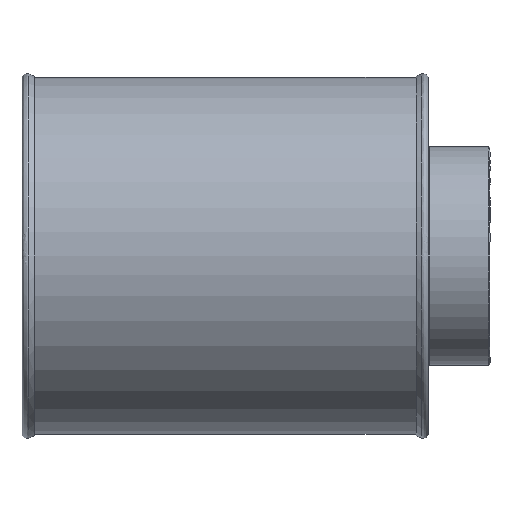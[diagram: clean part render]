
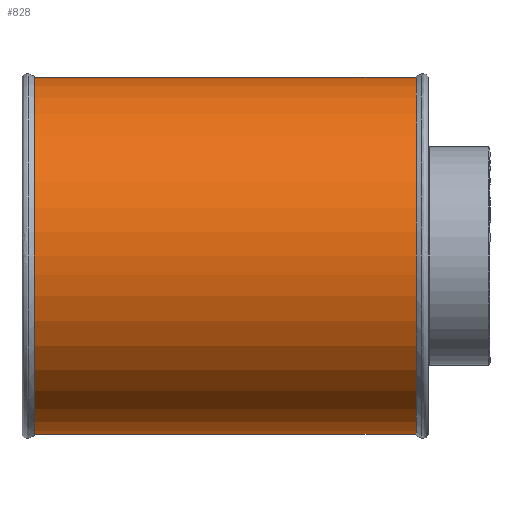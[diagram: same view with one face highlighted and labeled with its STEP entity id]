
A CAD part, left-side view. The second image highlights one B-rep face of the part: STEP entity #828.
In plain terms, the highlighted free-form (B-spline) face has degree [2, 1] with [7, 2] control points.
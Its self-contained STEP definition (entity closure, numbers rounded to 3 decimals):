
#756=CARTESIAN_POINT('V18',(-72.5,0.0,
   0.));
#757=VERTEX_POINT('V18',#756);
#758=CARTESIAN_POINT('E44',(-72.5,0.0,
   0.));
#759=CARTESIAN_POINT('E44',(-72.5,0.0,
   125.574));
#760=CARTESIAN_POINT('E44',(36.25,0.,
   62.787));
#761=CARTESIAN_POINT('E44',(145.,0.,
   0.));
#762=CARTESIAN_POINT('E44',(36.25,0.,
   -62.787));
#763=CARTESIAN_POINT('E44',(-72.5,0.0,
   -125.574));
#764=CARTESIAN_POINT('E44',(-72.5,0.0,
   0.));
#772=(BOUNDED_CURVE()B_SPLINE_CURVE(2,(#758,#759,#760,#761,#762,
   #763,#764),.CIRCULAR_ARC.,.T.,.U.)B_SPLINE_CURVE_WITH_KNOTS((3,
   2,2,3),(0.0,0.333,0.667,1.0),
   .UNSPECIFIED.)CURVE()GEOMETRIC_REPRESENTATION_ITEM()
   RATIONAL_B_SPLINE_CURVE((1.0,0.5,1.0,
   0.5,1.0,0.5,1.0))REPRESENTATION_ITEM(
   'E44'));
#773=EDGE_CURVE('E44',#757,#757,#772,.T.);
#778=CARTESIAN_POINT('F17',(-72.5,-155.0,
   0.));
#779=CARTESIAN_POINT('F17',(-72.5,-155.0,
   125.574));
#780=CARTESIAN_POINT('F17',(36.25,-155.0,
   62.787));
#781=CARTESIAN_POINT('F17',(145.,-155.0,
   0.));
#782=CARTESIAN_POINT('F17',(36.25,-155.0,
   -62.787));
#783=CARTESIAN_POINT('F17',(-72.5,-155.0,
   -125.574));
#784=CARTESIAN_POINT('F17',(-72.5,-155.0,
   0.));
#785=CARTESIAN_POINT('F17',(-72.5,0.0,
   0.));
#786=CARTESIAN_POINT('F17',(-72.5,0.0,
   125.574));
#787=CARTESIAN_POINT('F17',(36.25,0.,
   62.787));
#788=CARTESIAN_POINT('F17',(145.,0.,
   0.));
#789=CARTESIAN_POINT('F17',(36.25,0.,
   -62.787));
#790=CARTESIAN_POINT('F17',(-72.5,0.0,
   -125.574));
#791=CARTESIAN_POINT('F17',(-72.5,0.0,
   0.));
#799=(BOUNDED_SURFACE()B_SPLINE_SURFACE(2,1,((#778,#785),(#779,
   #786),(#780,#787),(#781,#788),(#782,#789),(#783,#790),(
   #784,#791)),.CYLINDRICAL_SURF.,.T.,.F.,.U.)
   B_SPLINE_SURFACE_WITH_KNOTS((3,2,2,3),(2,2),(0.0,
   1.62,3.241,4.861),(0.0,1.0),
   .UNSPECIFIED.)GEOMETRIC_REPRESENTATION_ITEM()
   RATIONAL_B_SPLINE_SURFACE(((1.0,1.0),(0.5,
   0.5),(1.0,1.0),(0.5,
   0.5),(1.0,1.0),(0.5,
   0.5),(1.0,1.0)))REPRESENTATION_ITEM('F17')SURFACE(
   ));
#800=CARTESIAN_POINT('V19',(-72.5,-155.0,
   0.));
#801=VERTEX_POINT('V19',#800);
#802=CARTESIAN_POINT('E7',(-72.5,0.0,0.0));
#803=CARTESIAN_POINT('E7',(-72.5,-155.0,0.0));
#804=QUASI_UNIFORM_CURVE('E7',1,(#802,#803),.POLYLINE_FORM.,.F.,.U.
   );
#805=EDGE_CURVE('E7',#757,#801,#804,.T.);
#806=ORIENTED_EDGE('E7',*,*,#805,.T.);
#807=CARTESIAN_POINT('E45',(-72.5,-155.0,
   0.));
#808=CARTESIAN_POINT('E45',(-72.5,-155.0,
   125.574));
#809=CARTESIAN_POINT('E45',(36.25,-155.0,
   62.787));
#810=CARTESIAN_POINT('E45',(145.,-155.0,
   0.));
#811=CARTESIAN_POINT('E45',(36.25,-155.0,
   -62.787));
#812=CARTESIAN_POINT('E45',(-72.5,-155.0,
   -125.574));
#813=CARTESIAN_POINT('E45',(-72.5,-155.0,
   0.));
#821=(BOUNDED_CURVE()B_SPLINE_CURVE(2,(#807,#808,#809,#810,#811,
   #812,#813),.CIRCULAR_ARC.,.T.,.U.)B_SPLINE_CURVE_WITH_KNOTS((3,
   2,2,3),(0.0,1.62,3.241,
   4.861),.UNSPECIFIED.)CURVE()
   GEOMETRIC_REPRESENTATION_ITEM()RATIONAL_B_SPLINE_CURVE((1.0,
   0.5,1.0,0.5,1.0,0.5,1.0)
   )REPRESENTATION_ITEM('E45'));
#822=EDGE_CURVE('E45',#801,#801,#821,.T.);
#823=ORIENTED_EDGE('E45',*,*,#822,.T.);
#824=ORIENTED_EDGE('E7',*,*,#805,.F.);
#825=ORIENTED_EDGE('F16',*,*,#773,.F.);
#826=EDGE_LOOP('F17',(#806,#823,#824,#825));
#827=FACE_OUTER_BOUND('F17',#826,.T.);
#828=ADVANCED_FACE('F17',(#827),#799,.T.);
